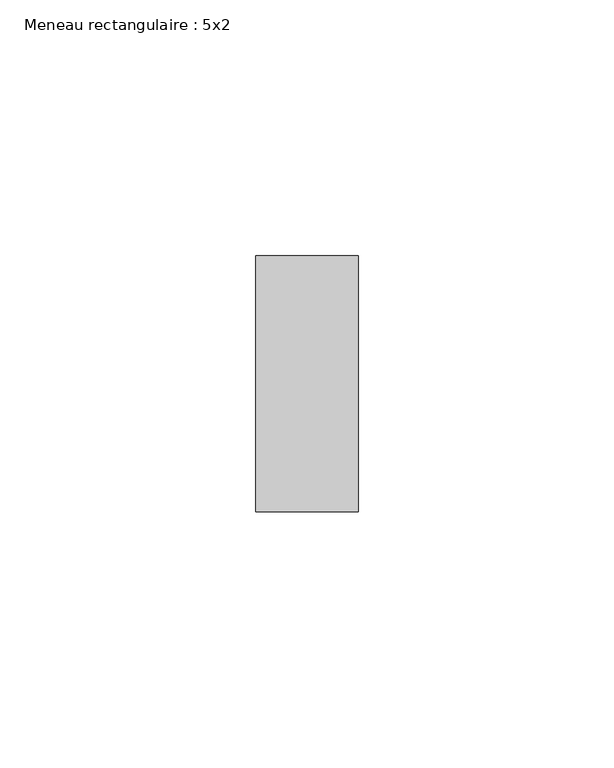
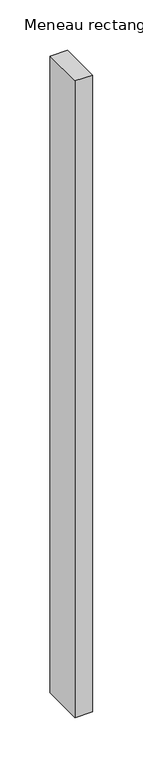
"""IFC4 building model written with IfcOpenShell, lengths in millimetres: member geometry, Meneau rectangulaire : 5x2."""

from ifc_helpers import new_model, si_unit, frame, origin, place, context, project, spatial, polyline, outline, extrude, source, transform, mapped, element, save


def meneau_rectangulaire_5x2_25c011d4(model_context):
    return source(origin(), model_context, "Body", "SweptSolid", [
        extrude(outline(polyline([(0.0, 25.0), (0.0, -25.0), (-20.0, -25.0), (-20.0, 25.0), (0.0, 25.0)])), frame((0.0, 0.0, -773.2488287), z_axis=(0.0, 0.0, 1.0), x_axis=(1.0, 0.0, 0.0)), (0.0, 0.0, 1.0), 773.2488287),
    ])


if __name__ == "__main__":
    model = new_model("IFC4")
    model_context = context("Model", 3, world=origin())
    ifc_project = project(units=[si_unit("LENGTHUNIT", "METRE", prefix="MILLI")], contexts=[model_context])
    site = spatial("IfcSite", under=ifc_project)
    building = spatial("IfcBuilding", under=site)
    placement = place(None, origin())
    meneau_rectangulaire_5x2_shape = meneau_rectangulaire_5x2_25c011d4(model_context)
    element("IfcMember", 1, ObjectType="Meneau rectangulaire : 5x2", at=placement, inside=building, context=model_context, shape_type="MappedRepresentation", body=[
        mapped(meneau_rectangulaire_5x2_shape, transform((0.0, 0.0, 0.0), x_axis=(1.0, 0.0, 0.0), y_axis=(0.0, 1.0, 0.0), z_axis=(0.0, 0.0, 1.0))),
    ])
    save(model, "model.ifc")
